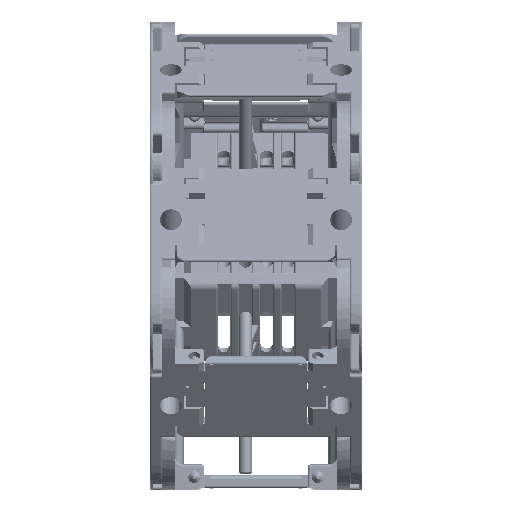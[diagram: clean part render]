
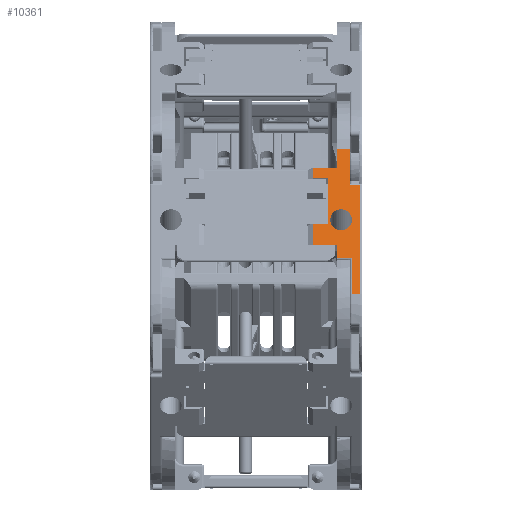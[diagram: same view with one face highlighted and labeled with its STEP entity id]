
A CAD part, front view. The second image highlights one B-rep face of the part: STEP entity #10361.
In plain terms, the highlighted planar face has unit normal (0, -0.971, 0.238) as drawn and (0, 0, 1) by its records, which use the part's own axes.
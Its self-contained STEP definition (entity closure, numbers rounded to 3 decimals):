
#4358=CARTESIAN_POINT('',(3.,-8.393,30.));
#4359=VERTEX_POINT('',#4358);
#4369=CARTESIAN_POINT('',(0.5,-8.393,30.));
#4370=VERTEX_POINT('',#4369);
#4371=CARTESIAN_POINT('',(0.5,-8.393,30.));
#4372=DIRECTION('',(1.0,0.,0.));
#4373=VECTOR('',#4372,2.5);
#4374=LINE('',#4371,#4373);
#4375=EDGE_CURVE('',#4370,#4359,#4374,.T.);
#9995=CARTESIAN_POINT('',(3.,-17.1,30.));
#9996=VERTEX_POINT('',#9995);
#10004=CARTESIAN_POINT('',(3.,-8.393,30.));
#10005=DIRECTION('',(0.0,-1.0,0.0));
#10006=VECTOR('',#10005,8.707);
#10007=LINE('',#10004,#10006);
#10008=EDGE_CURVE('',#4359,#9996,#10007,.T.);
#10208=CARTESIAN_POINT('',(6.,-17.1,30.));
#10209=VERTEX_POINT('',#10208);
#10219=CARTESIAN_POINT('',(3.,-17.1,30.));
#10220=DIRECTION('',(1.0,0.0,0.0));
#10221=VECTOR('',#10220,3.);
#10222=LINE('',#10219,#10221);
#10223=EDGE_CURVE('',#9996,#10209,#10222,.T.);
#10238=CARTESIAN_POINT('',(6.,0.4,30.));
#10239=DIRECTION('',(0.0,0.0,1.0));
#10240=DIRECTION('',(-1.0,0.0,0.0));
#10241=AXIS2_PLACEMENT_3D('',#10238,#10239,#10240);
#10242=PLANE('',#10241);
#10243=ORIENTED_EDGE('',*,*,#4375,.T.);
#10244=ORIENTED_EDGE('',*,*,#10008,.T.);
#10245=ORIENTED_EDGE('',*,*,#10223,.T.);
#10246=CARTESIAN_POINT('',(6.,-12.501,30.));
#10247=VERTEX_POINT('',#10246);
#10248=CARTESIAN_POINT('',(6.,-17.1,30.));
#10249=DIRECTION('',(0.,1.0,0.));
#10250=VECTOR('',#10249,4.599);
#10251=LINE('',#10248,#10250);
#10252=EDGE_CURVE('',#10209,#10247,#10251,.T.);
#10253=ORIENTED_EDGE('',*,*,#10252,.T.);
#10254=CARTESIAN_POINT('',(11.5,-12.501,30.));
#10255=VERTEX_POINT('',#10254);
#10256=CARTESIAN_POINT('',(6.,-12.501,30.));
#10257=DIRECTION('',(1.0,0.0,0.0));
#10258=VECTOR('',#10257,5.5);
#10259=LINE('',#10256,#10258);
#10260=EDGE_CURVE('',#10247,#10255,#10259,.T.);
#10261=ORIENTED_EDGE('',*,*,#10260,.T.);
#10262=CARTESIAN_POINT('',(11.5,-10.001,30.));
#10263=VERTEX_POINT('',#10262);
#10264=CARTESIAN_POINT('',(11.5,-12.501,30.));
#10265=DIRECTION('',(0.0,1.0,0.0));
#10266=VECTOR('',#10265,2.5);
#10267=LINE('',#10264,#10266);
#10268=EDGE_CURVE('',#10255,#10263,#10267,.T.);
#10269=ORIENTED_EDGE('',*,*,#10268,.T.);
#10270=CARTESIAN_POINT('',(8.,-10.001,30.));
#10271=VERTEX_POINT('',#10270);
#10272=CARTESIAN_POINT('',(8.,-10.001,30.));
#10273=DIRECTION('',(1.0,0.0,0.0));
#10274=VECTOR('',#10273,3.5);
#10275=LINE('',#10272,#10274);
#10276=EDGE_CURVE('',#10271,#10263,#10275,.T.);
#10277=ORIENTED_EDGE('',*,*,#10276,.F.);
#10278=CARTESIAN_POINT('',(8.,0.999,30.));
#10279=VERTEX_POINT('',#10278);
#10280=CARTESIAN_POINT('',(8.,0.999,30.));
#10281=DIRECTION('',(0.0,-1.0,0.0));
#10282=VECTOR('',#10281,11.0);
#10283=LINE('',#10280,#10282);
#10284=EDGE_CURVE('',#10279,#10271,#10283,.T.);
#10285=ORIENTED_EDGE('',*,*,#10284,.F.);
#10286=CARTESIAN_POINT('',(11.5,0.999,30.));
#10287=VERTEX_POINT('',#10286);
#10288=CARTESIAN_POINT('',(11.5,0.999,30.));
#10289=DIRECTION('',(-1.0,0.0,0.0));
#10290=VECTOR('',#10289,3.5);
#10291=LINE('',#10288,#10290);
#10292=EDGE_CURVE('',#10287,#10279,#10291,.T.);
#10293=ORIENTED_EDGE('',*,*,#10292,.F.);
#10294=CARTESIAN_POINT('',(11.5,5.999,30.));
#10295=VERTEX_POINT('',#10294);
#10296=CARTESIAN_POINT('',(11.5,0.999,30.));
#10297=DIRECTION('',(0.0,1.0,0.0));
#10298=VECTOR('',#10297,5.);
#10299=LINE('',#10296,#10298);
#10300=EDGE_CURVE('',#10287,#10295,#10299,.T.);
#10301=ORIENTED_EDGE('',*,*,#10300,.T.);
#10302=CARTESIAN_POINT('',(6.,5.999,30.));
#10303=VERTEX_POINT('',#10302);
#10304=CARTESIAN_POINT('',(6.,5.999,30.));
#10305=DIRECTION('',(1.0,0.0,0.0));
#10306=VECTOR('',#10305,5.5);
#10307=LINE('',#10304,#10306);
#10308=EDGE_CURVE('',#10303,#10295,#10307,.T.);
#10309=ORIENTED_EDGE('',*,*,#10308,.F.);
#10310=CARTESIAN_POINT('',(6.,9.192,30.));
#10311=VERTEX_POINT('',#10310);
#10312=CARTESIAN_POINT('',(6.,9.192,30.));
#10313=DIRECTION('',(0.0,-1.0,0.0));
#10314=VECTOR('',#10313,3.193);
#10315=LINE('',#10312,#10314);
#10316=EDGE_CURVE('',#10311,#10303,#10315,.T.);
#10317=ORIENTED_EDGE('',*,*,#10316,.F.);
#10318=CARTESIAN_POINT('',(2.5,9.192,30.));
#10319=VERTEX_POINT('',#10318);
#10320=CARTESIAN_POINT('',(2.5,9.192,30.));
#10321=DIRECTION('',(1.0,0.0,0.0));
#10322=VECTOR('',#10321,3.5);
#10323=LINE('',#10320,#10322);
#10324=EDGE_CURVE('',#10319,#10311,#10323,.T.);
#10325=ORIENTED_EDGE('',*,*,#10324,.F.);
#10326=CARTESIAN_POINT('',(2.5,17.9,30.));
#10327=VERTEX_POINT('',#10326);
#10328=CARTESIAN_POINT('',(2.5,9.192,30.));
#10329=DIRECTION('',(0.0,1.0,0.0));
#10330=VECTOR('',#10329,8.708);
#10331=LINE('',#10328,#10330);
#10332=EDGE_CURVE('',#10319,#10327,#10331,.T.);
#10333=ORIENTED_EDGE('',*,*,#10332,.T.);
#10334=CARTESIAN_POINT('',(0.5,17.9,30.));
#10335=VERTEX_POINT('',#10334);
#10336=CARTESIAN_POINT('',(0.5,17.9,30.));
#10337=DIRECTION('',(1.0,0.0,0.0));
#10338=VECTOR('',#10337,2.);
#10339=LINE('',#10336,#10338);
#10340=EDGE_CURVE('',#10335,#10327,#10339,.T.);
#10341=ORIENTED_EDGE('',*,*,#10340,.F.);
#10342=CARTESIAN_POINT('',(0.5,17.9,30.));
#10343=DIRECTION('',(0.0,-1.0,0.0));
#10344=VECTOR('',#10343,26.293);
#10345=LINE('',#10342,#10344);
#10346=EDGE_CURVE('',#10335,#4370,#10345,.T.);
#10347=ORIENTED_EDGE('',*,*,#10346,.T.);
#10348=EDGE_LOOP('',(#10243,#10244,#10245,#10253,#10261,#10269,#10277,#10285,#10293,#10301,#10309,#10317,#10325,#10333,#10341,#10347));
#10349=FACE_OUTER_BOUND('',#10348,.T.);
#10350=CARTESIAN_POINT('',(7.55,0.,30.));
#10351=VERTEX_POINT('',#10350);
#10352=CARTESIAN_POINT('',(5.,0.,30.));
#10353=DIRECTION('',(0.0,0.0,1.0));
#10354=DIRECTION('',(0.0,1.0,0.0));
#10355=AXIS2_PLACEMENT_3D('',#10352,#10353,#10354);
#10356=CIRCLE('',#10355,2.55);
#10357=EDGE_CURVE('',#10351,#10351,#10356,.T.);
#10358=ORIENTED_EDGE('',*,*,#10357,.F.);
#10359=EDGE_LOOP('',(#10358));
#10360=FACE_BOUND('',#10359,.T.);
#10361=ADVANCED_FACE('',(#10349,#10360),#10242,.T.);
